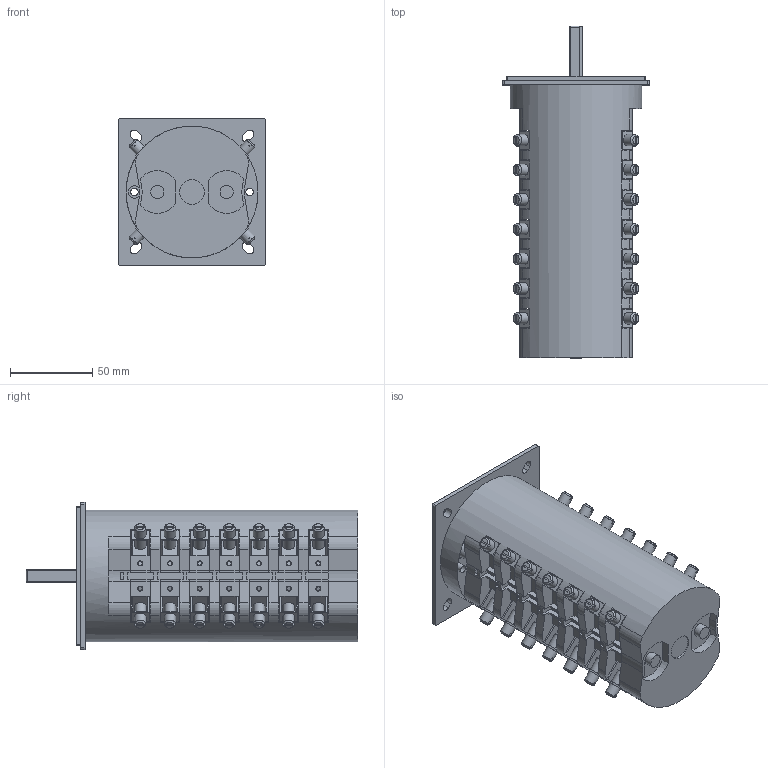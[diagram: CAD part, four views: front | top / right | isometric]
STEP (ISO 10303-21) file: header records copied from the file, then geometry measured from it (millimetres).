
FILE_DESCRIPTION(/* description */ (''),/* implementation_level */ '2;1');
FILE_NAME(/* name */ '4G80-U_7_korpusow.stp',/* time_stamp */ '2021-07-22T07:19:39+02:00',/* author */ (''),/* organization */ (''),/* preprocessor_version */ 'ST-DEVELOPER v18.1',/* originating_system */ 'SIEMENS PLM Software NX 1965',/* authorisation */ '');
FILE_SCHEMA (('AUTOMOTIVE_DESIGN { 1 0 10303 214 3 1 1 1 }'));
Length unit declared in the file: millimetre
Products named in the file (1): 4G80-U_7_korpusow_stp
Bounding box: 89.2 x 201.25 x 89.2 mm (x, y, z)
Volume: 699005 mm3; surface area: 137740 mm2
Topology: 1 solids, 49 shells, 1354 faces, 3482 edges, 2322 vertices
Faces by surface type: plane 980, cylinder 287, cone 84, bspline 3
Full cylindrical faces by diameter (mm): 2.5 x28, 4.5 x2, 7 x56, 7.5 x2, 8 x4, 8.5 x2, 11.6 x2, 12 x3, 15 x1, 80 x1
Entity records: 41757 total; most frequent: CARTESIAN_POINT 9496, DIRECTION 6513, ORIENTED_EDGE 6496, EDGE_CURVE 3248, LINE 2333, VECTOR 2333, VERTEX_POINT 2227, AXIS2_PLACEMENT_3D 2090
